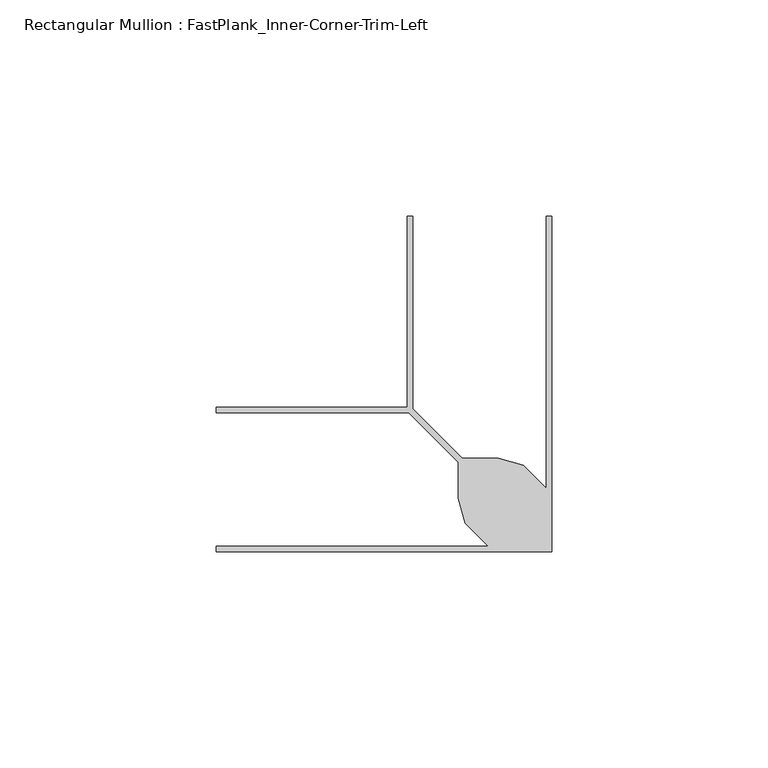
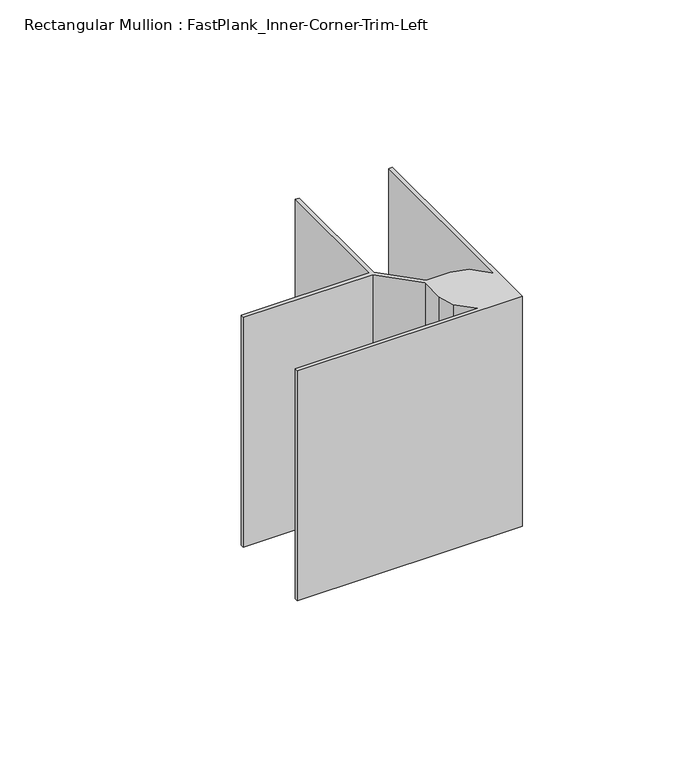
"""IFC4 building model written with IfcOpenShell, lengths in millimetres: member geometry, Rectangular Mullion : FastPlank_Inner-Corner-Trim-Left."""

from ifc_helpers import new_model, si_unit, frame, origin, place, context, project, spatial, polyline, outline, extrude, source, transform, mapped, element, save


def rectangular_mullion_fastplank_inner_corner_trim_left_bd85acba(model_context):
    return source(origin(), model_context, "Body", "SweptSolid", [
        extrude(outline(polyline([(0.0, 65.8344405), (0.0, -11.8654041), (-77.6998446, -11.8654041), (-77.6998446, -10.5654067), (-14.7093055, -10.5654067), (-20.0837776, -5.1909347), (-21.6227418, 0.5525579), (-21.6227418, 8.8381007), (-33.1191726, 20.3345315), (-77.6998446, 20.3345315), (-77.6998446, 21.6345289), (-33.499933, 21.6345289), (-33.499933, 65.8344405), (-32.1999356, 65.8344405), (-32.1999356, 21.2537685), (-20.7035048, 9.7573377), (-12.417962, 9.7573377), (-6.6744694, 8.2183735), (-1.2999974, 2.8439015), (-1.2999974, 65.8344405), (0.0, 65.8344405)])), frame((0.0, 0.0, -83.8500189), z_axis=(0.0, 0.0, 1.0), x_axis=(1.0, 0.0, 0.0)), (0.0, 0.0, 1.0), 83.8500189),
    ])


if __name__ == "__main__":
    model = new_model("IFC4")
    model_context = context("Model", 3, world=origin())
    ifc_project = project(units=[si_unit("LENGTHUNIT", "METRE", prefix="MILLI")], contexts=[model_context])
    site = spatial("IfcSite", under=ifc_project)
    building = spatial("IfcBuilding", under=site)
    placement = place(None, origin())
    rectangular_mullion_fastplank_inner_corner_trim_left_shape = rectangular_mullion_fastplank_inner_corner_trim_left_bd85acba(model_context)
    element("IfcMember", 1, ObjectType="Rectangular Mullion : FastPlank_Inner-Corner-Trim-Left", at=placement, inside=building, context=model_context, shape_type="MappedRepresentation", body=[
        mapped(rectangular_mullion_fastplank_inner_corner_trim_left_shape, transform((0.0, 0.0, 0.0), x_axis=(1.0, 0.0, 0.0), y_axis=(0.0, 1.0, 0.0), z_axis=(0.0, 0.0, 1.0))),
    ])
    save(model, "model.ifc")
